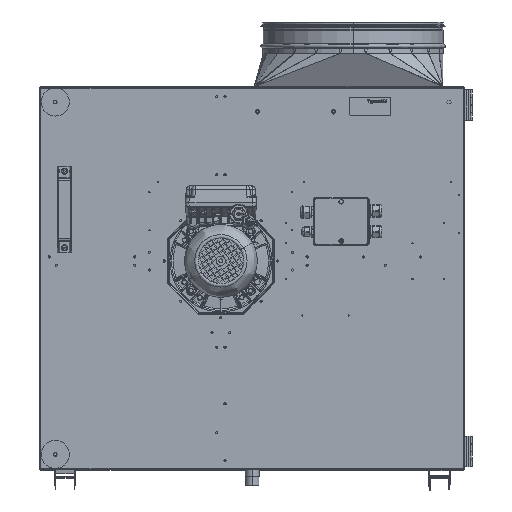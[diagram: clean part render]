
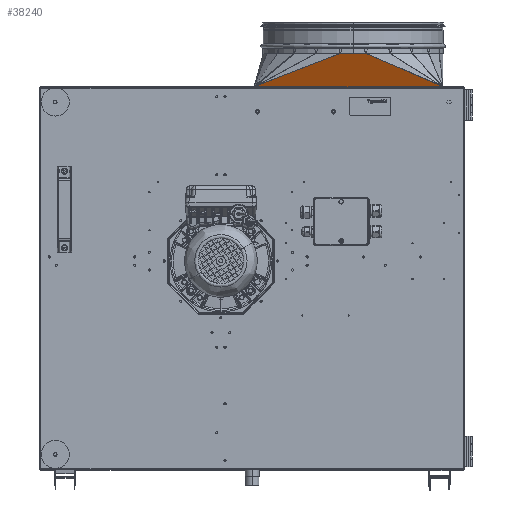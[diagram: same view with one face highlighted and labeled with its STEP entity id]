
A CAD part, top view. The second image highlights one B-rep face of the part: STEP entity #38240.
In plain terms, the highlighted planar face has unit normal (0, -0.472, 0.881).
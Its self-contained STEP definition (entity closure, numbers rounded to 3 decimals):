
#1012 = VERTEX_POINT ( 'NONE', #3927 ) ;
#2669 = LINE ( 'NONE', #8473, #132209 ) ;
#3927 = CARTESIAN_POINT ( 'NONE',  ( 3.715, 375.74, 320. ) ) ;
#8473 = CARTESIAN_POINT ( 'NONE',  ( 373.815, 375.74, 320. ) ) ;
#9015 = DIRECTION ( 'NONE',  ( -1., 0., 0. ) ) ;
#9816 = EDGE_CURVE ( 'NONE', #55636, #58084, #110395, .T. ) ;
#13217 = DIRECTION ( 'NONE',  ( -1., 0., 0. ) ) ;
#15006 = LINE ( 'NONE', #33673, #144577 ) ;
#21857 = EDGE_CURVE ( 'NONE', #102659, #1012, #25714, .T. ) ;
#25714 = LINE ( 'NONE', #112345, #155315 ) ;
#25827 = LINE ( 'NONE', #56625, #92562 ) ;
#25840 = ORIENTED_EDGE ( 'NONE', *, *, #78064, .F. ) ;
#32321 = VERTEX_POINT ( 'NONE', #35934 ) ;
#33673 = CARTESIAN_POINT ( 'NONE',  ( 373.815, 375.74, 320. ) ) ;
#35508 = EDGE_CURVE ( 'NONE', #50025, #1012, #113334, .T. ) ;
#35934 = CARTESIAN_POINT ( 'NONE',  ( 373.815, 375.74, 320. ) ) ;
#38240 = ADVANCED_FACE ( 'NONE', ( #149156 ), #42571, .T. ) ;
#42571 = PLANE ( 'NONE',  #59179 ) ;
#48506 = VERTEX_POINT ( 'NONE', #82622 ) ;
#48990 = ORIENTED_EDGE ( 'NONE', *, *, #101002, .F. ) ;
#49704 = ORIENTED_EDGE ( 'NONE', *, *, #21857, .T. ) ;
#50025 = VERTEX_POINT ( 'NONE', #57302 ) ;
#53830 = EDGE_CURVE ( 'NONE', #58042, #102659, #25827, .T. ) ;
#55204 = DIRECTION ( 'NONE',  ( 0., -0.473, 0.881 ) ) ;
#55636 = VERTEX_POINT ( 'NONE', #131143 ) ;
#56625 = CARTESIAN_POINT ( 'NONE',  ( 197.773, 440.24, 354.582 ) ) ;
#57302 = CARTESIAN_POINT ( 'NONE',  ( 4.545, 375.74, 320. ) ) ;
#58042 = VERTEX_POINT ( 'NONE', #85076 ) ;
#58084 = VERTEX_POINT ( 'NONE', #135567 ) ;
#58867 = DIRECTION ( 'NONE',  ( -1., 0., 0. ) ) ;
#59179 = AXIS2_PLACEMENT_3D ( 'NONE', #130383, #55204, #142989 ) ;
#59472 = ORIENTED_EDGE ( 'NONE', *, *, #53830, .T. ) ;
#71653 = CARTESIAN_POINT ( 'NONE',  ( 373.815, 375.74, 320. ) ) ;
#72041 = ORIENTED_EDGE ( 'NONE', *, *, #9816, .F. ) ;
#75038 = DIRECTION ( 'NONE',  ( -0.917, -0.353, -0.189 ) ) ;
#78064 = EDGE_CURVE ( 'NONE', #58084, #48506, #155826, .T. ) ;
#80599 = CARTESIAN_POINT ( 'NONE',  ( 222.827, 440.74, 354.85 ) ) ;
#81318 = DIRECTION ( 'NONE',  ( -1., 0., 0. ) ) ;
#82622 = CARTESIAN_POINT ( 'NONE',  ( 5.081, 375.74, 320. ) ) ;
#85076 = CARTESIAN_POINT ( 'NONE',  ( 223.988, 440.24, 354.582 ) ) ;
#89341 = ORIENTED_EDGE ( 'NONE', *, *, #35508, .F. ) ;
#91337 = VECTOR ( 'NONE', #93234, 1000. ) ;
#92562 = VECTOR ( 'NONE', #81318, 1000. ) ;
#93234 = DIRECTION ( 'NONE',  ( 0.899, -0.387, -0.207 ) ) ;
#98839 = EDGE_LOOP ( 'NONE', ( #147951, #59472, #49704, #89341, #127382, #25840, #72041, #48990 ) ) ;
#100977 = CARTESIAN_POINT ( 'NONE',  ( 373.815, 375.74, 320. ) ) ;
#101002 = EDGE_CURVE ( 'NONE', #32321, #55636, #15006, .T. ) ;
#102659 = VERTEX_POINT ( 'NONE', #117997 ) ;
#109378 = VECTOR ( 'NONE', #13217, 1000. ) ;
#110395 = LINE ( 'NONE', #139282, #147755 ) ;
#112345 = CARTESIAN_POINT ( 'NONE',  ( 3.715, 375.74, 320. ) ) ;
#113334 = LINE ( 'NONE', #100977, #109378 ) ;
#114613 = EDGE_CURVE ( 'NONE', #58042, #32321, #158151, .T. ) ;
#117997 = CARTESIAN_POINT ( 'NONE',  ( 171.42, 440.24, 354.582 ) ) ;
#121784 = EDGE_CURVE ( 'NONE', #48506, #50025, #2669, .T. ) ;
#125596 = DIRECTION ( 'NONE',  ( -1., 0., 0. ) ) ;
#127382 = ORIENTED_EDGE ( 'NONE', *, *, #121784, .F. ) ;
#130383 = CARTESIAN_POINT ( 'NONE',  ( 197.773, 368.175, 315.944 ) ) ;
#131143 = CARTESIAN_POINT ( 'NONE',  ( 372.755, 375.74, 320. ) ) ;
#132209 = VECTOR ( 'NONE', #9015, 1000. ) ;
#135567 = CARTESIAN_POINT ( 'NONE',  ( 372.449, 375.74, 320. ) ) ;
#139282 = CARTESIAN_POINT ( 'NONE',  ( 373.815, 375.74, 320. ) ) ;
#142989 = DIRECTION ( 'NONE',  ( 0., 0.881, 0.473 ) ) ;
#144577 = VECTOR ( 'NONE', #58867, 1000. ) ;
#146865 = DIRECTION ( 'NONE',  ( -1., 0., 0. ) ) ;
#147755 = VECTOR ( 'NONE', #125596, 1000. ) ;
#147951 = ORIENTED_EDGE ( 'NONE', *, *, #114613, .F. ) ;
#149156 = FACE_OUTER_BOUND ( 'NONE', #98839, .T. ) ;
#155315 = VECTOR ( 'NONE', #75038, 1000. ) ;
#155826 = LINE ( 'NONE', #71653, #159783 ) ;
#158151 = LINE ( 'NONE', #80599, #91337 ) ;
#159783 = VECTOR ( 'NONE', #146865, 1000. ) ;
